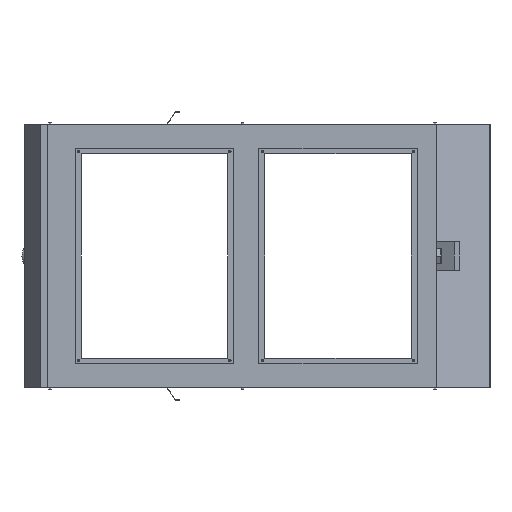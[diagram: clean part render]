
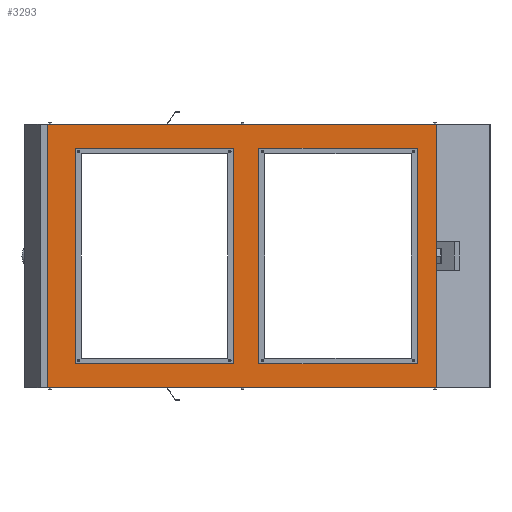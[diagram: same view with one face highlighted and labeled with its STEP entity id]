
A CAD part, left-side view. The second image highlights one B-rep face of the part: STEP entity #3293.
In plain terms, the highlighted planar face has unit normal (-1, 0, 0).
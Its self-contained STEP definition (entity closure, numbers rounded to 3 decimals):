
#30=LINE('',#4574,#324);
#31=LINE('',#4575,#325);
#32=LINE('',#4577,#326);
#66=LINE('',#4664,#360);
#85=LINE('',#4754,#379);
#86=LINE('',#4755,#380);
#87=LINE('',#4756,#381);
#102=LINE('',#4806,#396);
#188=LINE('',#5013,#482);
#207=LINE('',#5160,#501);
#211=LINE('',#5168,#505);
#214=LINE('',#5174,#508);
#217=LINE('',#5179,#511);
#223=LINE('',#5193,#517);
#227=LINE('',#5201,#521);
#230=LINE('',#5207,#524);
#233=LINE('',#5212,#527);
#312=LINE('',#5371,#606);
#324=VECTOR('',#3689,10.);
#325=VECTOR('',#3690,10.);
#326=VECTOR('',#3691,10.);
#360=VECTOR('',#3759,10.);
#379=VECTOR('',#3848,10.);
#380=VECTOR('',#3849,10.);
#381=VECTOR('',#3850,10.);
#396=VECTOR('',#3897,10.);
#482=VECTOR('',#4101,10.);
#501=VECTOR('',#4282,10.);
#505=VECTOR('',#4288,10.);
#508=VECTOR('',#4293,10.);
#511=VECTOR('',#4298,10.);
#517=VECTOR('',#4308,10.);
#521=VECTOR('',#4314,10.);
#524=VECTOR('',#4319,10.);
#527=VECTOR('',#4324,10.);
#606=VECTOR('',#4475,10.);
#883=PLANE('',#3604);
#989=FACE_BOUND('',#1465,.T.);
#990=FACE_BOUND('',#1466,.T.);
#1175=FACE_OUTER_BOUND('',#1464,.T.);
#1464=EDGE_LOOP('',(#2983,#2984,#2985,#2986,#2987,#2988,#2989,#2990,#2991,
#2992));
#1465=EDGE_LOOP('',(#2993,#2994,#2995,#2996));
#1466=EDGE_LOOP('',(#2997,#2998,#2999,#3000));
#1600=VERTEX_POINT('',#4561);
#1602=VERTEX_POINT('',#4567);
#1604=VERTEX_POINT('',#4572);
#1605=VERTEX_POINT('',#4576);
#1641=VERTEX_POINT('',#4662);
#1655=VERTEX_POINT('',#4704);
#1657=VERTEX_POINT('',#4710);
#1658=VERTEX_POINT('',#4714);
#1677=VERTEX_POINT('',#4752);
#1696=VERTEX_POINT('',#4805);
#1804=VERTEX_POINT('',#5158);
#1805=VERTEX_POINT('',#5159);
#1808=VERTEX_POINT('',#5167);
#1810=VERTEX_POINT('',#5173);
#1816=VERTEX_POINT('',#5191);
#1817=VERTEX_POINT('',#5192);
#1820=VERTEX_POINT('',#5200);
#1822=VERTEX_POINT('',#5206);
#1885=EDGE_CURVE('',#1604,#1602,#30,.T.);
#1886=EDGE_CURVE('',#1602,#1600,#31,.T.);
#1887=EDGE_CURVE('',#1600,#1605,#32,.T.);
#1929=EDGE_CURVE('',#1641,#1604,#66,.T.);
#1966=EDGE_CURVE('',#1677,#1655,#85,.T.);
#1967=EDGE_CURVE('',#1655,#1657,#86,.T.);
#1968=EDGE_CURVE('',#1657,#1658,#87,.T.);
#1990=EDGE_CURVE('',#1658,#1696,#102,.T.);
#2094=EDGE_CURVE('',#1641,#1696,#188,.T.);
#2150=EDGE_CURVE('',#1804,#1805,#207,.T.);
#2154=EDGE_CURVE('',#1805,#1808,#211,.T.);
#2157=EDGE_CURVE('',#1808,#1810,#214,.T.);
#2160=EDGE_CURVE('',#1810,#1804,#217,.T.);
#2166=EDGE_CURVE('',#1816,#1817,#223,.T.);
#2170=EDGE_CURVE('',#1817,#1820,#227,.T.);
#2173=EDGE_CURVE('',#1820,#1822,#230,.T.);
#2176=EDGE_CURVE('',#1822,#1816,#233,.T.);
#2255=EDGE_CURVE('',#1677,#1605,#312,.T.);
#2983=ORIENTED_EDGE('',*,*,#2094,.T.);
#2984=ORIENTED_EDGE('',*,*,#1990,.F.);
#2985=ORIENTED_EDGE('',*,*,#1968,.F.);
#2986=ORIENTED_EDGE('',*,*,#1967,.F.);
#2987=ORIENTED_EDGE('',*,*,#1966,.F.);
#2988=ORIENTED_EDGE('',*,*,#2255,.T.);
#2989=ORIENTED_EDGE('',*,*,#1887,.F.);
#2990=ORIENTED_EDGE('',*,*,#1886,.F.);
#2991=ORIENTED_EDGE('',*,*,#1885,.F.);
#2992=ORIENTED_EDGE('',*,*,#1929,.F.);
#2993=ORIENTED_EDGE('',*,*,#2150,.T.);
#2994=ORIENTED_EDGE('',*,*,#2154,.T.);
#2995=ORIENTED_EDGE('',*,*,#2157,.T.);
#2996=ORIENTED_EDGE('',*,*,#2160,.T.);
#2997=ORIENTED_EDGE('',*,*,#2166,.T.);
#2998=ORIENTED_EDGE('',*,*,#2170,.T.);
#2999=ORIENTED_EDGE('',*,*,#2173,.T.);
#3000=ORIENTED_EDGE('',*,*,#2176,.T.);
#3293=ADVANCED_FACE('',(#1175,#989,#990),#883,.T.);
#3604=AXIS2_PLACEMENT_3D('',#5376,#4482,#4483);
#3689=DIRECTION('',(0.,1.,0.));
#3690=DIRECTION('',(0.,1.,0.));
#3691=DIRECTION('',(0.,1.,0.));
#3759=DIRECTION('',(0.,1.,0.));
#3848=DIRECTION('',(0.,-1.,0.));
#3849=DIRECTION('',(0.,-1.,0.));
#3850=DIRECTION('',(0.,-1.,0.));
#3897=DIRECTION('',(0.,-1.,0.));
#4101=DIRECTION('',(0.,0.,1.));
#4282=DIRECTION('',(0.,-1.,0.));
#4288=DIRECTION('',(0.,0.,-1.));
#4293=DIRECTION('',(0.,1.,0.));
#4298=DIRECTION('',(0.,0.,1.));
#4308=DIRECTION('',(0.,-1.,0.));
#4314=DIRECTION('',(0.,0.,-1.));
#4319=DIRECTION('',(0.,1.,0.));
#4324=DIRECTION('',(0.,0.,1.));
#4475=DIRECTION('',(0.,0.,-1.));
#4482=DIRECTION('center_axis',(-1.,0.,0.));
#4483=DIRECTION('ref_axis',(0.,-1.,0.));
#4561=CARTESIAN_POINT('',(-1097.5,664.25,-456.5));
#4567=CARTESIAN_POINT('',(-1097.5,-2.75,-456.5));
#4572=CARTESIAN_POINT('',(-1097.5,-669.75,-456.5));
#4574=CARTESIAN_POINT('',(-1097.5,674.25,-456.5));
#4575=CARTESIAN_POINT('',(-1097.5,674.25,-456.5));
#4576=CARTESIAN_POINT('',(-1097.5,674.25,-456.5));
#4577=CARTESIAN_POINT('',(-1097.5,674.25,-456.5));
#4662=CARTESIAN_POINT('',(-1097.5,-674.25,-456.5));
#4664=CARTESIAN_POINT('',(-1097.5,674.25,-456.5));
#4704=CARTESIAN_POINT('',(-1097.5,664.25,456.5));
#4710=CARTESIAN_POINT('',(-1097.5,-2.75,456.5));
#4714=CARTESIAN_POINT('',(-1097.5,-669.75,456.5));
#4752=CARTESIAN_POINT('',(-1097.5,674.25,456.5));
#4754=CARTESIAN_POINT('',(-1097.5,674.25,456.5));
#4755=CARTESIAN_POINT('',(-1097.5,674.25,456.5));
#4756=CARTESIAN_POINT('',(-1097.5,674.25,456.5));
#4805=CARTESIAN_POINT('',(-1097.5,-674.25,456.5));
#4806=CARTESIAN_POINT('',(-1097.5,674.25,456.5));
#5013=CARTESIAN_POINT('',(-1097.5,-674.25,0.));
#5158=CARTESIAN_POINT('',(-1097.5,577.25,374.));
#5159=CARTESIAN_POINT('',(-1097.5,29.25,374.));
#5160=CARTESIAN_POINT('',(-1097.5,351.75,374.));
#5167=CARTESIAN_POINT('',(-1097.5,29.25,-374.));
#5168=CARTESIAN_POINT('',(-1097.5,29.25,-187.));
#5173=CARTESIAN_POINT('',(-1097.5,577.25,-374.));
#5174=CARTESIAN_POINT('',(-1097.5,625.75,-374.));
#5179=CARTESIAN_POINT('',(-1097.5,577.25,187.));
#5191=CARTESIAN_POINT('',(-1097.5,-59.75,374.));
#5192=CARTESIAN_POINT('',(-1097.5,-607.75,374.));
#5193=CARTESIAN_POINT('',(-1097.5,33.25,374.));
#5200=CARTESIAN_POINT('',(-1097.5,-607.75,-374.));
#5201=CARTESIAN_POINT('',(-1097.5,-607.75,-187.));
#5206=CARTESIAN_POINT('',(-1097.5,-59.75,-374.));
#5207=CARTESIAN_POINT('',(-1097.5,307.25,-374.));
#5212=CARTESIAN_POINT('',(-1097.5,-59.75,187.));
#5371=CARTESIAN_POINT('',(-1097.5,674.25,0.));
#5376=CARTESIAN_POINT('Origin',(-1097.5,674.25,0.));
